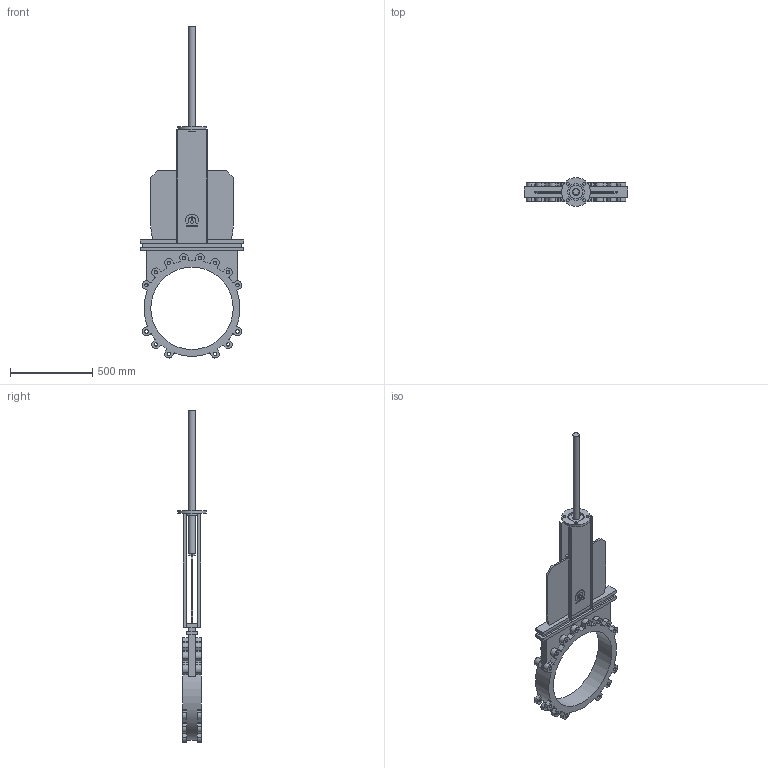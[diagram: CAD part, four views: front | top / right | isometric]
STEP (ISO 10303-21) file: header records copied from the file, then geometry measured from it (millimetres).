
FILE_DESCRIPTION(('STEP AP203'), '1');
FILE_NAME('K51GVA_DN500', '', ('UNSPECIFIED'), ('UNSPECIFIED'), 'ASCON STEP Converter 1.6', 'ASCON Math Kernel', '');
FILE_SCHEMA(('CONFIG_CONTROL_DESIGN'));
Length unit declared in the file: millimetre
Bounding box: 630 x 175 x 2014.41 mm (x, y, z)
Volume: 18533101.4 mm3; surface area: 2178740.5 mm2
Topology: 1 solids, 1 shells, 316 faces, 901 edges, 594 vertices
Faces by surface type: plane 153, cylinder 146, cone 17
Full cylindrical faces by diameter (mm): 18 x4, 20.752 x28, 40 x2, 80 x1, 100 x1, 175 x1, 500 x1
Entity records: 12604 total; most frequent: DIRECTION 1798, CARTESIAN_POINT 1725, ORIENTED_EDGE 1660, EDGE_CURVE 830, AXIS2_PLACEMENT_3D 651, VERTEX_POINT 578, LINE 496, VECTOR 496
